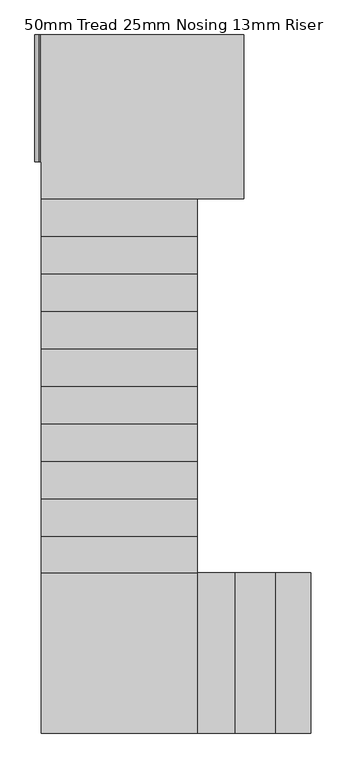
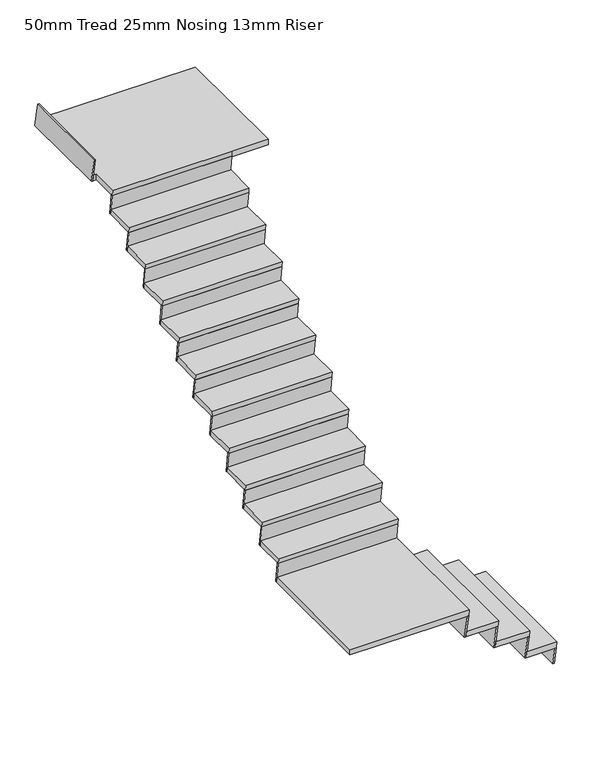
"""IFC4 building model written with IfcOpenShell, lengths in millimetres: stair flight geometry, 50mm Tread 25mm Nosing 13mm Riser."""

from ifc_helpers import new_model, si_unit, origin, place, context, project, spatial, faceted_brep, source, transform, mapped, element, save


def stair_flight_50mm_tread_25mm_nosing_13mm_riser_24ee91d4(model_context):
    return source(origin(), model_context, "Body", "Brep", [
        faceted_brep([(15473.9030773, 2691.1409405, 190.5), (15467.3413975, 2691.1409405, 140.5), (15467.3413975, 1598.9409405, 140.5), (15473.9030773, 1598.9409405, 190.5), (15739.9101773, 1598.9409405, 190.5), (15739.9101773, 2691.1409405, 190.5), (15733.3484975, 2691.1409405, 140.5), (15733.3484975, 1598.9409405, 140.5)], [[[0, 1, 2, 3]], [[3, 4, 5, 0]], [[2, 1, 6, 7]], [[4, 3, 2, 7]], [[0, 5, 6, 1]], [[5, 4, 7, 6]]]),
        faceted_brep([(15733.3484975, 2691.1409405, 140.5), (15714.9101773, 2691.1409405, 0.0), (15702.3029977, 2691.1409405, 0.0), (15720.7413179, 2691.1409405, 140.5), (15733.3484975, 1598.9409405, 140.5), (15720.7413179, 1598.9409405, 140.5), (15702.3029977, 1598.9409405, 0.0), (15714.9101773, 1598.9409405, 0.0)], [[[0, 1, 2, 3]], [[4, 5, 6, 7]], [[1, 0, 4, 7]], [[2, 1, 7, 6]], [[3, 2, 6, 5]], [[0, 3, 5, 4]]]),
        faceted_brep([(15492.3413975, 2691.1409405, 331.0), (15467.3413975, 2691.1409405, 140.5), (15454.7342179, 2691.1409405, 140.5), (15479.7342179, 2691.1409405, 331.0), (15492.3413975, 1598.9409405, 331.0), (15479.7342179, 1598.9409405, 331.0), (15454.7342179, 1598.9409405, 140.5), (15467.3413975, 1598.9409405, 140.5)], [[[0, 1, 2, 3]], [[4, 5, 6, 7]], [[1, 0, 4, 7]], [[2, 1, 7, 6]], [[3, 2, 6, 5]], [[0, 3, 5, 4]]]),
        faceted_brep([(15197.9148773, 1598.9409405, 381.0), (15498.9030773, 1598.9409405, 381.0), (15498.9030773, 2691.1409405, 381.0), (15197.9148773, 2691.1409405, 381.0), (15191.3531975, 1598.9409405, 331.0), (15191.3531975, 2691.1409405, 331.0), (15492.3413975, 2691.1409405, 331.0), (15492.3413975, 1598.9409405, 331.0)], [[[0, 1, 2, 3]], [[4, 5, 6, 7]], [[1, 0, 4, 7]], [[3, 2, 6, 5]], [[3, 5, 4, 0]], [[2, 1, 7, 6]]]),
        faceted_brep([(15216.3531975, 2691.1409405, 521.5), (15191.3531975, 2691.1409405, 331.0), (15178.7460179, 2691.1409405, 331.0), (15203.7460179, 2691.1409405, 521.5), (15216.3531975, 1598.9409405, 521.5), (15203.7460179, 1598.9409405, 521.5), (15178.7460179, 1598.9409405, 331.0), (15191.3531975, 1598.9409405, 331.0)], [[[0, 1, 2, 3]], [[4, 5, 6, 7]], [[1, 0, 4, 7]], [[2, 1, 7, 6]], [[3, 2, 6, 5]], [[0, 3, 5, 4]]]),
        faceted_brep([(14939.6517773, 1598.9409405, 571.5), (15222.9148773, 1598.9409405, 571.5), (15222.9148773, 2691.1409405, 571.5), (14939.6517773, 2691.1409405, 571.5), (14933.0900975, 1598.9409405, 521.5), (14933.0900975, 2691.1409405, 521.5), (15216.3531975, 2691.1409405, 521.5), (15216.3531975, 1598.9409405, 521.5)], [[[0, 1, 2, 3]], [[4, 5, 6, 7]], [[1, 0, 4, 7]], [[3, 2, 6, 5]], [[3, 5, 4, 0]], [[2, 1, 7, 6]]]),
        faceted_brep([(14964.6517773, 4989.6380203, 2617.0), (14964.6517773, 5014.6380203, 2426.5), (14964.6517773, 5027.2451999, 2426.5), (14964.6517773, 5002.2451999, 2617.0), (13904.2017773, 4989.6380203, 2617.0), (13904.2017773, 5002.2451999, 2617.0), (13904.2017773, 5027.2451999, 2426.5), (13904.2017773, 5014.6380203, 2426.5)], [[[0, 1, 2, 3]], [[4, 5, 6, 7]], [[1, 0, 4, 7]], [[2, 1, 7, 6]], [[3, 2, 6, 5]], [[0, 3, 5, 4]]]),
        faceted_brep([(13904.2017773, 5262.4909405, 2667.0), (13904.2017773, 4983.0763405, 2667.0), (14964.6517773, 4983.0763405, 2667.0), (14964.6517773, 5262.4909405, 2667.0), (13904.2017773, 5269.0526203, 2617.0), (14964.6517773, 5269.0526203, 2617.0), (14964.6517773, 4989.6380203, 2617.0), (13904.2017773, 4989.6380203, 2617.0)], [[[0, 1, 2, 3]], [[4, 5, 6, 7]], [[1, 0, 4, 7]], [[3, 2, 6, 5]], [[3, 5, 4, 0]], [[2, 1, 7, 6]]]),
        faceted_brep([(14964.6517773, 5244.0526203, 2807.5), (14964.6517773, 5269.0526203, 2617.0), (14964.6517773, 5281.6597999, 2617.0), (14964.6517773, 5256.6597999, 2807.5), (13904.2017773, 5244.0526203, 2807.5), (13904.2017773, 5256.6597999, 2807.5), (13904.2017773, 5281.6597999, 2617.0), (13904.2017773, 5269.0526203, 2617.0)], [[[0, 1, 2, 3]], [[4, 5, 6, 7]], [[1, 0, 4, 7]], [[2, 1, 7, 6]], [[3, 2, 6, 5]], [[0, 3, 5, 4]]]),
        faceted_brep([(13897.6400975, 6355.0909405, 2998.0), (13872.6400975, 6355.0909405, 2807.5), (13860.0329179, 6355.0909405, 2807.5), (13885.0329179, 6355.0909405, 2998.0), (13897.6400975, 5490.3972905, 2998.0), (13885.0329179, 5490.3972905, 2998.0), (13860.0329179, 5490.3972905, 2807.5), (13872.6400975, 5490.3972905, 2807.5)], [[[0, 1, 2, 3]], [[4, 5, 6, 7]], [[1, 0, 4, 7]], [[2, 1, 7, 6]], [[3, 2, 6, 5]], [[0, 3, 5, 4]]]),
        faceted_brep([(13879.2017773, 5490.3972905, 2857.5), (13904.2017773, 5490.3972905, 2857.5), (13904.2017773, 5237.4909405, 2857.5), (14964.6517773, 5237.4909405, 2857.5), (15282.1517773, 5237.4909405, 2857.5), (15282.1517773, 6355.0909405, 2857.5), (13879.2017773, 6355.0909405, 2857.5), (15282.1517773, 5237.4909405, 2807.5), (14964.6517773, 5237.4909405, 2807.5), (14964.6517773, 5244.0526203, 2807.5), (13904.2017773, 5244.0526203, 2807.5), (13904.2017773, 5490.3972905, 2807.5), (13872.6400975, 5490.3972905, 2807.5), (13872.6400975, 6355.0909405, 2807.5), (15282.1517773, 6355.0909405, 2807.5)], [[[0, 1, 2, 3, 4, 5, 6]], [[7, 8, 9, 10, 11, 12, 13, 14]], [[2, 1, 11, 10]], [[4, 3, 8, 7]], [[6, 13, 12, 0]], [[9, 3, 2, 10]], [[1, 0, 12, 11]], [[5, 4, 7, 14]], [[6, 5, 14, 13]], [[3, 9, 8]]]),
        faceted_brep([(14958.0900975, 2691.1409405, 712.0), (14933.0900975, 2691.1409405, 521.5), (14920.4829179, 2691.1409405, 521.5), (14945.4829179, 2691.1409405, 712.0), (14958.0900975, 1598.9409405, 712.0), (14945.4829179, 1598.9409405, 712.0), (14920.4829179, 1598.9409405, 521.5), (14933.0900975, 1598.9409405, 521.5)], [[[0, 1, 2, 3]], [[4, 5, 6, 7]], [[1, 0, 4, 7]], [[2, 1, 7, 6]], [[3, 2, 6, 5]], [[0, 3, 5, 4]]]),
        faceted_brep([(13904.2017773, 2716.1409405, 762.0), (13904.2017773, 1598.9409405, 762.0), (14964.6517773, 1598.9409405, 762.0), (14964.6517773, 2691.1409405, 762.0), (14964.6517773, 2716.1409405, 762.0), (13904.2017773, 2722.7026203, 712.0), (14964.6517773, 2722.7026203, 712.0), (14964.6517773, 2691.1409405, 712.0), (14958.0900975, 2691.1409405, 712.0), (14958.0900975, 1598.9409405, 712.0), (13904.2017773, 1598.9409405, 712.0)], [[[0, 1, 2, 3, 4]], [[5, 6, 7, 8, 9, 10]], [[1, 0, 5, 10]], [[2, 1, 10, 9]], [[4, 3, 7, 6]], [[4, 6, 5, 0]], [[3, 8, 7]], [[8, 3, 2, 9]]]),
        faceted_brep([(14964.6517773, 2697.7026203, 902.5), (14964.6517773, 2722.7026203, 712.0), (14964.6517773, 2735.3097999, 712.0), (14964.6517773, 2710.3097999, 902.5), (13904.2017773, 2697.7026203, 902.5), (13904.2017773, 2710.3097999, 902.5), (13904.2017773, 2735.3097999, 712.0), (13904.2017773, 2722.7026203, 712.0)], [[[0, 1, 2, 3]], [[4, 5, 6, 7]], [[1, 0, 4, 7]], [[2, 1, 7, 6]], [[3, 2, 6, 5]], [[0, 3, 5, 4]]]),
        faceted_brep([(13904.2017773, 2965.9163405, 952.5), (13904.2017773, 2691.1409405, 952.5), (14964.6517773, 2691.1409405, 952.5), (14964.6517773, 2965.9163405, 952.5), (13904.2017773, 2972.4780203, 902.5), (14964.6517773, 2972.4780203, 902.5), (14964.6517773, 2697.7026203, 902.5), (13904.2017773, 2697.7026203, 902.5)], [[[0, 1, 2, 3]], [[4, 5, 6, 7]], [[1, 0, 4, 7]], [[3, 2, 6, 5]], [[3, 5, 4, 0]], [[2, 1, 7, 6]]]),
        faceted_brep([(14964.6517773, 2947.4780203, 1093.0), (14964.6517773, 2972.4780203, 902.5), (14964.6517773, 2985.0851999, 902.5), (14964.6517773, 2960.0851999, 1093.0), (13904.2017773, 2947.4780203, 1093.0), (13904.2017773, 2960.0851999, 1093.0), (13904.2017773, 2985.0851999, 902.5), (13904.2017773, 2972.4780203, 902.5)], [[[0, 1, 2, 3]], [[4, 5, 6, 7]], [[1, 0, 4, 7]], [[2, 1, 7, 6]], [[3, 2, 6, 5]], [[0, 3, 5, 4]]]),
        faceted_brep([(13904.2017773, 3221.1863405, 1143.0), (13904.2017773, 2940.9163405, 1143.0), (14964.6517773, 2940.9163405, 1143.0), (14964.6517773, 3221.1863405, 1143.0), (13904.2017773, 3227.7480203, 1093.0), (14964.6517773, 3227.7480203, 1093.0), (14964.6517773, 2947.4780203, 1093.0), (13904.2017773, 2947.4780203, 1093.0)], [[[0, 1, 2, 3]], [[4, 5, 6, 7]], [[1, 0, 4, 7]], [[3, 2, 6, 5]], [[3, 5, 4, 0]], [[2, 1, 7, 6]]]),
        faceted_brep([(14964.6517773, 3202.7480203, 1283.5), (14964.6517773, 3227.7480203, 1093.0), (14964.6517773, 3240.3551999, 1093.0), (14964.6517773, 3215.3551999, 1283.5), (13904.2017773, 3202.7480203, 1283.5), (13904.2017773, 3215.3551999, 1283.5), (13904.2017773, 3240.3551999, 1093.0), (13904.2017773, 3227.7480203, 1093.0)], [[[0, 1, 2, 3]], [[4, 5, 6, 7]], [[1, 0, 4, 7]], [[2, 1, 7, 6]], [[3, 2, 6, 5]], [[0, 3, 5, 4]]]),
        faceted_brep([(13904.2017773, 3476.4563405, 1333.5), (13904.2017773, 3196.1863405, 1333.5), (14964.6517773, 3196.1863405, 1333.5), (14964.6517773, 3476.4563405, 1333.5), (13904.2017773, 3483.0180203, 1283.5), (14964.6517773, 3483.0180203, 1283.5), (14964.6517773, 3202.7480203, 1283.5), (13904.2017773, 3202.7480203, 1283.5)], [[[0, 1, 2, 3]], [[4, 5, 6, 7]], [[1, 0, 4, 7]], [[3, 2, 6, 5]], [[3, 5, 4, 0]], [[2, 1, 7, 6]]]),
        faceted_brep([(14964.6517773, 3458.0180203, 1474.0), (14964.6517773, 3483.0180203, 1283.5), (14964.6517773, 3495.6251999, 1283.5), (14964.6517773, 3470.6251999, 1474.0), (13904.2017773, 3458.0180203, 1474.0), (13904.2017773, 3470.6251999, 1474.0), (13904.2017773, 3495.6251999, 1283.5), (13904.2017773, 3483.0180203, 1283.5)], [[[0, 1, 2, 3]], [[4, 5, 6, 7]], [[1, 0, 4, 7]], [[2, 1, 7, 6]], [[3, 2, 6, 5]], [[0, 3, 5, 4]]]),
        faceted_brep([(13904.2017773, 3731.7263405, 1524.0), (13904.2017773, 3451.4563405, 1524.0), (14964.6517773, 3451.4563405, 1524.0), (14964.6517773, 3731.7263405, 1524.0), (13904.2017773, 3738.2880203, 1474.0), (14964.6517773, 3738.2880203, 1474.0), (14964.6517773, 3458.0180203, 1474.0), (13904.2017773, 3458.0180203, 1474.0)], [[[0, 1, 2, 3]], [[4, 5, 6, 7]], [[1, 0, 4, 7]], [[3, 2, 6, 5]], [[3, 5, 4, 0]], [[2, 1, 7, 6]]]),
        faceted_brep([(14964.6517773, 3713.2880203, 1664.5), (14964.6517773, 3738.2880203, 1474.0), (14964.6517773, 3750.8951999, 1474.0), (14964.6517773, 3725.8951999, 1664.5), (13904.2017773, 3713.2880203, 1664.5), (13904.2017773, 3725.8951999, 1664.5), (13904.2017773, 3750.8951999, 1474.0), (13904.2017773, 3738.2880203, 1474.0)], [[[0, 1, 2, 3]], [[4, 5, 6, 7]], [[1, 0, 4, 7]], [[2, 1, 7, 6]], [[3, 2, 6, 5]], [[0, 3, 5, 4]]]),
        faceted_brep([(13904.2017773, 3986.9963405, 1714.5), (13904.2017773, 3706.7263405, 1714.5), (14964.6517773, 3706.7263405, 1714.5), (14964.6517773, 3986.9963405, 1714.5), (13904.2017773, 3993.5580203, 1664.5), (14964.6517773, 3993.5580203, 1664.5), (14964.6517773, 3713.2880203, 1664.5), (13904.2017773, 3713.2880203, 1664.5)], [[[0, 1, 2, 3]], [[4, 5, 6, 7]], [[1, 0, 4, 7]], [[3, 2, 6, 5]], [[3, 5, 4, 0]], [[2, 1, 7, 6]]]),
        faceted_brep([(14964.6517773, 3968.5580203, 1855.0), (14964.6517773, 3993.5580203, 1664.5), (14964.6517773, 4006.1651999, 1664.5), (14964.6517773, 3981.1651999, 1855.0), (13904.2017773, 3968.5580203, 1855.0), (13904.2017773, 3981.1651999, 1855.0), (13904.2017773, 4006.1651999, 1664.5), (13904.2017773, 3993.5580203, 1664.5)], [[[0, 1, 2, 3]], [[4, 5, 6, 7]], [[1, 0, 4, 7]], [[2, 1, 7, 6]], [[3, 2, 6, 5]], [[0, 3, 5, 4]]]),
        faceted_brep([(13904.2017773, 4242.2663405, 1905.0), (13904.2017773, 3961.9963405, 1905.0), (14964.6517773, 3961.9963405, 1905.0), (14964.6517773, 4242.2663405, 1905.0), (13904.2017773, 4248.8280203, 1855.0), (14964.6517773, 4248.8280203, 1855.0), (14964.6517773, 3968.5580203, 1855.0), (13904.2017773, 3968.5580203, 1855.0)], [[[0, 1, 2, 3]], [[4, 5, 6, 7]], [[1, 0, 4, 7]], [[3, 2, 6, 5]], [[3, 5, 4, 0]], [[2, 1, 7, 6]]]),
        faceted_brep([(14964.6517773, 4223.8280203, 2045.5), (14964.6517773, 4248.8280203, 1855.0), (14964.6517773, 4261.4351999, 1855.0), (14964.6517773, 4236.4351999, 2045.5), (13904.2017773, 4223.8280203, 2045.5), (13904.2017773, 4236.4351999, 2045.5), (13904.2017773, 4261.4351999, 1855.0), (13904.2017773, 4248.8280203, 1855.0)], [[[0, 1, 2, 3]], [[4, 5, 6, 7]], [[1, 0, 4, 7]], [[2, 1, 7, 6]], [[3, 2, 6, 5]], [[0, 3, 5, 4]]]),
        faceted_brep([(13904.2017773, 4497.5363405, 2095.5), (13904.2017773, 4217.2663405, 2095.5), (14964.6517773, 4217.2663405, 2095.5), (14964.6517773, 4497.5363405, 2095.5), (13904.2017773, 4504.0980203, 2045.5), (14964.6517773, 4504.0980203, 2045.5), (14964.6517773, 4223.8280203, 2045.5), (13904.2017773, 4223.8280203, 2045.5)], [[[0, 1, 2, 3]], [[4, 5, 6, 7]], [[1, 0, 4, 7]], [[3, 2, 6, 5]], [[3, 5, 4, 0]], [[2, 1, 7, 6]]]),
        faceted_brep([(14964.6517773, 4479.0980203, 2236.0), (14964.6517773, 4504.0980203, 2045.5), (14964.6517773, 4516.7051999, 2045.5), (14964.6517773, 4491.7051999, 2236.0), (13904.2017773, 4479.0980203, 2236.0), (13904.2017773, 4491.7051999, 2236.0), (13904.2017773, 4516.7051999, 2045.5), (13904.2017773, 4504.0980203, 2045.5)], [[[0, 1, 2, 3]], [[4, 5, 6, 7]], [[1, 0, 4, 7]], [[2, 1, 7, 6]], [[3, 2, 6, 5]], [[0, 3, 5, 4]]]),
        faceted_brep([(13904.2017773, 4752.8063405, 2286.0), (13904.2017773, 4472.5363405, 2286.0), (14964.6517773, 4472.5363405, 2286.0), (14964.6517773, 4752.8063405, 2286.0), (13904.2017773, 4759.3680203, 2236.0), (14964.6517773, 4759.3680203, 2236.0), (14964.6517773, 4479.0980203, 2236.0), (13904.2017773, 4479.0980203, 2236.0)], [[[0, 1, 2, 3]], [[4, 5, 6, 7]], [[1, 0, 4, 7]], [[3, 2, 6, 5]], [[3, 5, 4, 0]], [[2, 1, 7, 6]]]),
        faceted_brep([(14964.6517773, 4734.3680203, 2426.5), (14964.6517773, 4759.3680203, 2236.0), (14964.6517773, 4771.9751999, 2236.0), (14964.6517773, 4746.9751999, 2426.5), (13904.2017773, 4734.3680203, 2426.5), (13904.2017773, 4746.9751999, 2426.5), (13904.2017773, 4771.9751999, 2236.0), (13904.2017773, 4759.3680203, 2236.0)], [[[0, 1, 2, 3]], [[4, 5, 6, 7]], [[1, 0, 4, 7]], [[2, 1, 7, 6]], [[3, 2, 6, 5]], [[0, 3, 5, 4]]]),
        faceted_brep([(13904.2017773, 5008.0763405, 2476.5), (13904.2017773, 4727.8063405, 2476.5), (14964.6517773, 4727.8063405, 2476.5), (14964.6517773, 5008.0763405, 2476.5), (13904.2017773, 5014.6380203, 2426.5), (14964.6517773, 5014.6380203, 2426.5), (14964.6517773, 4734.3680203, 2426.5), (13904.2017773, 4734.3680203, 2426.5)], [[[0, 1, 2, 3]], [[4, 5, 6, 7]], [[1, 0, 4, 7]], [[3, 2, 6, 5]], [[3, 5, 4, 0]], [[2, 1, 7, 6]]]),
    ])


if __name__ == "__main__":
    model = new_model("IFC4")
    model_context = context("Model", 3, world=origin())
    ifc_project = project(units=[si_unit("LENGTHUNIT", "METRE", prefix="MILLI")], contexts=[model_context])
    site = spatial("IfcSite", under=ifc_project)
    building = spatial("IfcBuilding", under=site)
    placement = place(None, origin())
    stair_flight_50mm_tread_25mm_nosing_13mm_riser_shape = stair_flight_50mm_tread_25mm_nosing_13mm_riser_24ee91d4(model_context)
    element("IfcStairFlight", 1, ObjectType="50mm Tread 25mm Nosing 13mm Riser", at=placement, inside=building, context=model_context, shape_type="MappedRepresentation", body=[
        mapped(stair_flight_50mm_tread_25mm_nosing_13mm_riser_shape, transform((0.0, 0.0, 0.0), x_axis=(1.0, 0.0, 0.0), y_axis=(0.0, 1.0, 0.0), z_axis=(0.0, 0.0, 1.0))),
    ])
    save(model, "model.ifc")
